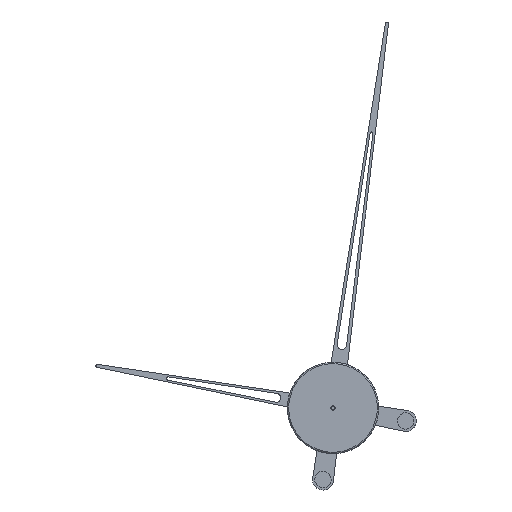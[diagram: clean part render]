
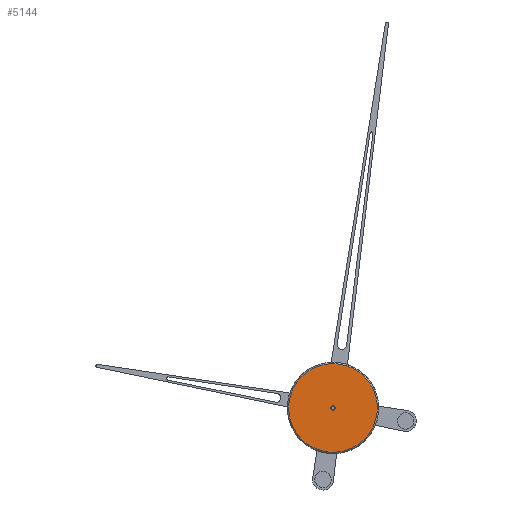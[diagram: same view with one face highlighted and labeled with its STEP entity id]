
A CAD part, front view. The second image highlights one B-rep face of the part: STEP entity #5144.
In plain terms, the highlighted planar face has unit normal (0, -1, 0).
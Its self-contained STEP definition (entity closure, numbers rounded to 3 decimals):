
#480 = DIRECTION ( 'NONE',  ( 0., 0., -1. ) ) ;
#622 = AXIS2_PLACEMENT_3D ( 'NONE', #10816, #4482, #11931 ) ;
#660 = DIRECTION ( 'NONE',  ( 0., 1., 0. ) ) ;
#1900 = EDGE_LOOP ( 'NONE', ( #6201, #9296 ) ) ;
#2575 = DIRECTION ( 'NONE',  ( 0., -1., 0. ) ) ;
#2685 = FACE_BOUND ( 'NONE', #7075, .T. ) ;
#3386 = AXIS2_PLACEMENT_3D ( 'NONE', #11345, #660, #9122 ) ;
#3534 = EDGE_CURVE ( 'NONE', #6264, #6372, #13619, .T. ) ;
#4482 = DIRECTION ( 'NONE',  ( 0., 1., 0. ) ) ;
#4497 = EDGE_CURVE ( 'NONE', #8516, #7578, #12758, .T. ) ;
#5144 = ADVANCED_FACE ( 'NONE', ( #2685, #7316 ), #8145, .F. ) ;
#5659 = CIRCLE ( 'NONE', #9170, 2. ) ;
#6201 = ORIENTED_EDGE ( 'NONE', *, *, #3534, .T. ) ;
#6264 = VERTEX_POINT ( 'NONE', #11986 ) ;
#6372 = VERTEX_POINT ( 'NONE', #13602 ) ;
#6983 = AXIS2_PLACEMENT_3D ( 'NONE', #11017, #11156, #12127 ) ;
#7075 = EDGE_LOOP ( 'NONE', ( #12913, #12548 ) ) ;
#7288 = DIRECTION ( 'NONE',  ( 0., 1., 0. ) ) ;
#7316 = FACE_OUTER_BOUND ( 'NONE', #1900, .T. ) ;
#7578 = VERTEX_POINT ( 'NONE', #8594 ) ;
#7863 = EDGE_CURVE ( 'NONE', #7578, #8516, #5659, .T. ) ;
#8145 = PLANE ( 'NONE',  #3386 ) ;
#8516 = VERTEX_POINT ( 'NONE', #10534 ) ;
#8594 = CARTESIAN_POINT ( 'NONE',  ( 43.3, -19.5, 2. ) ) ;
#9122 = DIRECTION ( 'NONE',  ( 0., 0., 1. ) ) ;
#9170 = AXIS2_PLACEMENT_3D ( 'NONE', #13606, #7288, #13463 ) ;
#9296 = ORIENTED_EDGE ( 'NONE', *, *, #10704, .T. ) ;
#10534 = CARTESIAN_POINT ( 'NONE',  ( 43.3, -19.5, -2. ) ) ;
#10704 = EDGE_CURVE ( 'NONE', #6372, #6264, #13142, .T. ) ;
#10816 = CARTESIAN_POINT ( 'NONE',  ( 43.3, -19.5, 0. ) ) ;
#11017 = CARTESIAN_POINT ( 'NONE',  ( 43.3, -19.5, 0. ) ) ;
#11156 = DIRECTION ( 'NONE',  ( 0., -1., 0. ) ) ;
#11345 = CARTESIAN_POINT ( 'NONE',  ( 1., -19.5, 0. ) ) ;
#11931 = DIRECTION ( 'NONE',  ( 0., 0., 1. ) ) ;
#11986 = CARTESIAN_POINT ( 'NONE',  ( 43.3, -19.5, -42.3 ) ) ;
#12127 = DIRECTION ( 'NONE',  ( 0., 0., -1. ) ) ;
#12174 = CARTESIAN_POINT ( 'NONE',  ( 43.3, -19.5, 0. ) ) ;
#12548 = ORIENTED_EDGE ( 'NONE', *, *, #4497, .T. ) ;
#12758 = CIRCLE ( 'NONE', #622, 2. ) ;
#12913 = ORIENTED_EDGE ( 'NONE', *, *, #7863, .T. ) ;
#13142 = CIRCLE ( 'NONE', #6983, 42.3 ) ;
#13350 = AXIS2_PLACEMENT_3D ( 'NONE', #12174, #2575, #480 ) ;
#13463 = DIRECTION ( 'NONE',  ( 0., 0., 1. ) ) ;
#13602 = CARTESIAN_POINT ( 'NONE',  ( 43.3, -19.5, 42.3 ) ) ;
#13606 = CARTESIAN_POINT ( 'NONE',  ( 43.3, -19.5, 0. ) ) ;
#13619 = CIRCLE ( 'NONE', #13350, 42.3 ) ;
